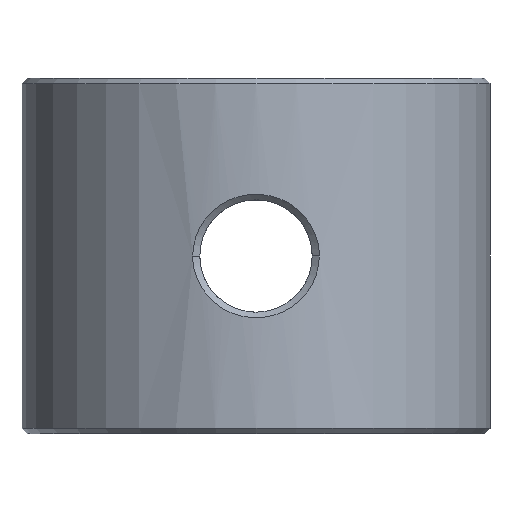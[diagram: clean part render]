
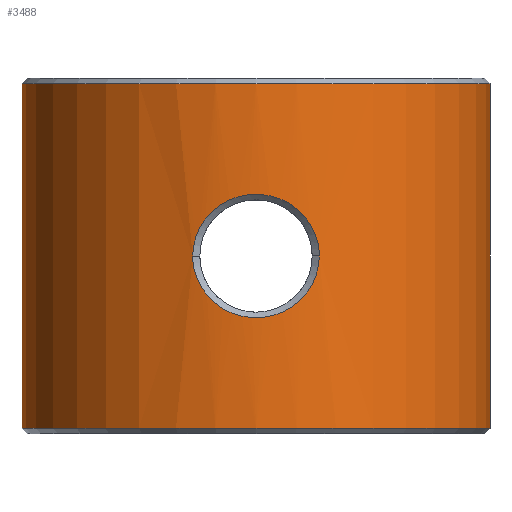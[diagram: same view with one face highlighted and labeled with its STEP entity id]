
A CAD part, left-side view. The second image highlights one B-rep face of the part: STEP entity #3488.
In plain terms, the highlighted cylindrical face has radius 12.5 mm (diameter 25 mm), a partial arc.
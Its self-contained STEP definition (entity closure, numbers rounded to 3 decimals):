
#1077=CARTESIAN_POINT('',(0.,0.,9.2));
#1078=DIRECTION('',(0.,0.,1.));
#1079=DIRECTION('',(0.,1.,0.));
#1080=AXIS2_PLACEMENT_3D('',#1077,#1078,#1079);
#1082=DIRECTION('',(0.,0.,1.));
#1083=VECTOR('',#1082,18.4);
#1084=CARTESIAN_POINT('',(0.,-12.5,
-9.2));
#1085=LINE('',#1084,#1083);
#1086=CARTESIAN_POINT('',(0.,0.,-9.2));
#1087=DIRECTION('',(0.,0.,1.));
#1088=DIRECTION('',(0.,1.,0.));
#1089=AXIS2_PLACEMENT_3D('',#1086,#1087,#1088);
#1091=DIRECTION('',(0.,0.,1.));
#1092=VECTOR('',#1091,18.4);
#1093=CARTESIAN_POINT('',(0.,12.5,
-9.2));
#1094=LINE('',#1093,#1092);
#1095=CARTESIAN_POINT('',(-12.034,-3.381,
0.));
#1096=CARTESIAN_POINT('',(-12.034,-3.381,
-0.196));
#1097=CARTESIAN_POINT('',(-12.044,-3.346,
-0.586));
#1098=CARTESIAN_POINT('',(-12.089,-3.182,
-1.169));
#1099=CARTESIAN_POINT('',(-12.158,-2.911,
-1.716));
#1100=CARTESIAN_POINT('',(-12.243,-2.533,
-2.215));
#1101=CARTESIAN_POINT('',(-12.332,-2.063,
-2.639));
#1102=CARTESIAN_POINT('',(-12.412,-1.52,
-2.969));
#1103=CARTESIAN_POINT('',(-12.47,-0.929,
-3.193));
#1104=CARTESIAN_POINT('',(-12.501,-0.31,
-3.305));
#1105=CARTESIAN_POINT('',(-12.501,0.317,
-3.304));
#1106=CARTESIAN_POINT('',(-12.47,0.936,
-3.191));
#1107=CARTESIAN_POINT('',(-12.411,1.527,
-2.966));
#1108=CARTESIAN_POINT('',(-12.331,2.069,
-2.635));
#1109=CARTESIAN_POINT('',(-12.242,2.538,
-2.209));
#1110=CARTESIAN_POINT('',(-12.157,2.914,
-1.711));
#1111=CARTESIAN_POINT('',(-12.088,3.186,
-1.16));
#1112=CARTESIAN_POINT('',(-12.044,3.347,
-0.577));
#1113=CARTESIAN_POINT('',(-12.034,3.381,
-0.194));
#1114=CARTESIAN_POINT('',(-12.034,3.381,
0.));
#1116=CARTESIAN_POINT('',(-12.034,3.381,
0.));
#1117=CARTESIAN_POINT('',(-12.034,3.381,
0.196));
#1118=CARTESIAN_POINT('',(-12.044,3.346,
0.586));
#1119=CARTESIAN_POINT('',(-12.089,3.182,1.169));
#1120=CARTESIAN_POINT('',(-12.158,2.911,1.716));
#1121=CARTESIAN_POINT('',(-12.243,2.533,2.215));
#1122=CARTESIAN_POINT('',(-12.332,2.063,2.639));
#1123=CARTESIAN_POINT('',(-12.412,1.52,2.969));
#1124=CARTESIAN_POINT('',(-12.47,0.929,
3.193));
#1125=CARTESIAN_POINT('',(-12.501,0.31,
3.305));
#1126=CARTESIAN_POINT('',(-12.501,-0.317,
3.304));
#1127=CARTESIAN_POINT('',(-12.47,-0.936,
3.191));
#1128=CARTESIAN_POINT('',(-12.411,-1.527,
2.966));
#1129=CARTESIAN_POINT('',(-12.331,-2.069,
2.635));
#1130=CARTESIAN_POINT('',(-12.242,-2.538,
2.209));
#1131=CARTESIAN_POINT('',(-12.157,-2.914,
1.711));
#1132=CARTESIAN_POINT('',(-12.088,-3.186,
1.16));
#1133=CARTESIAN_POINT('',(-12.044,-3.347,
0.577));
#1134=CARTESIAN_POINT('',(-12.034,-3.381,
0.194));
#1135=CARTESIAN_POINT('',(-12.034,-3.381,
0.));
#2182=CARTESIAN_POINT('',(0.,12.5,9.2));
#2183=CARTESIAN_POINT('',(0.,-12.5,9.2));
#2184=VERTEX_POINT('',#2182);
#2185=VERTEX_POINT('',#2183);
#2186=CARTESIAN_POINT('',(0.,12.5,-9.2));
#2187=CARTESIAN_POINT('',(0.,-12.5,-9.2));
#2188=VERTEX_POINT('',#2186);
#2189=VERTEX_POINT('',#2187);
#2232=VERTEX_POINT('',#1095);
#2233=VERTEX_POINT('',#1114);
#3468=CARTESIAN_POINT('',(0.,0.,10.45));
#3469=DIRECTION('',(0.,0.,-1.));
#3470=DIRECTION('',(0.,-1.,0.));
#3471=AXIS2_PLACEMENT_3D('',#3468,#3469,#3470);
#3472=CYLINDRICAL_SURFACE('',#3471,12.5);
#3474=ORIENTED_EDGE('',*,*,#3473,.T.);
#3476=ORIENTED_EDGE('',*,*,#3475,.F.);
#3478=ORIENTED_EDGE('',*,*,#3477,.F.);
#3480=ORIENTED_EDGE('',*,*,#3479,.T.);
#3481=EDGE_LOOP('',(#3474,#3476,#3478,#3480));
#3482=FACE_OUTER_BOUND('',#3481,.F.);
#3483=ORIENTED_EDGE('',*,*,#3458,.F.);
#3485=ORIENTED_EDGE('',*,*,#3484,.F.);
#3486=EDGE_LOOP('',(#3483,#3485));
#3487=FACE_BOUND('',#3486,.F.);
#3488=ADVANCED_FACE('',(#3482,#3487),#3472,.T.);
#1081=CIRCLE('',#1080,12.5);
#1090=CIRCLE('',#1089,12.5);
#1115=B_SPLINE_CURVE_WITH_KNOTS('',3,(#1095,#1096,#1097,#1098,#1099,#1100,#1101,
#1102,#1103,#1104,#1105,#1106,#1107,#1108,#1109,#1110,#1111,#1112,#1113,#1114),
.UNSPECIFIED.,.F.,.F.,(4,1,1,1,1,1,1,1,1,1,1,1,1,1,1,1,1,4),(0.,
0.059,0.118,0.176,0.235,
0.294,0.353,0.412,0.471,
0.529,0.588,0.647,0.706,
0.765,0.824,0.882,0.941,1.),
.UNSPECIFIED.);
#1136=B_SPLINE_CURVE_WITH_KNOTS('',3,(#1116,#1117,#1118,#1119,#1120,#1121,#1122,
#1123,#1124,#1125,#1126,#1127,#1128,#1129,#1130,#1131,#1132,#1133,#1134,#1135),
.UNSPECIFIED.,.F.,.F.,(4,1,1,1,1,1,1,1,1,1,1,1,1,1,1,1,1,4),(0.,
0.059,0.118,0.176,0.235,
0.294,0.353,0.412,0.471,
0.529,0.588,0.647,0.706,
0.765,0.824,0.882,0.941,1.),
.UNSPECIFIED.);
#3458=EDGE_CURVE('',#2232,#2233,#1115,.T.);
#3473=EDGE_CURVE('',#2184,#2185,#1081,.T.);
#3475=EDGE_CURVE('',#2189,#2185,#1085,.T.);
#3477=EDGE_CURVE('',#2188,#2189,#1090,.T.);
#3479=EDGE_CURVE('',#2188,#2184,#1094,.T.);
#3484=EDGE_CURVE('',#2233,#2232,#1136,.T.);
